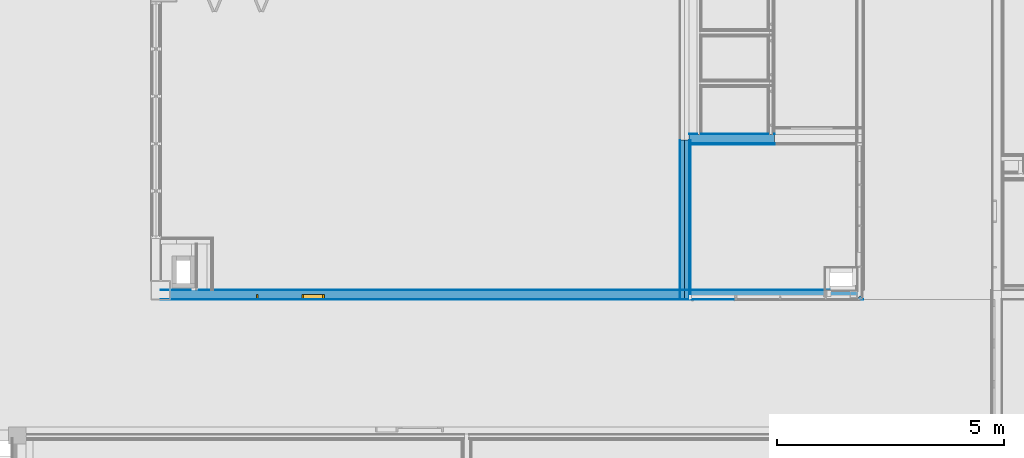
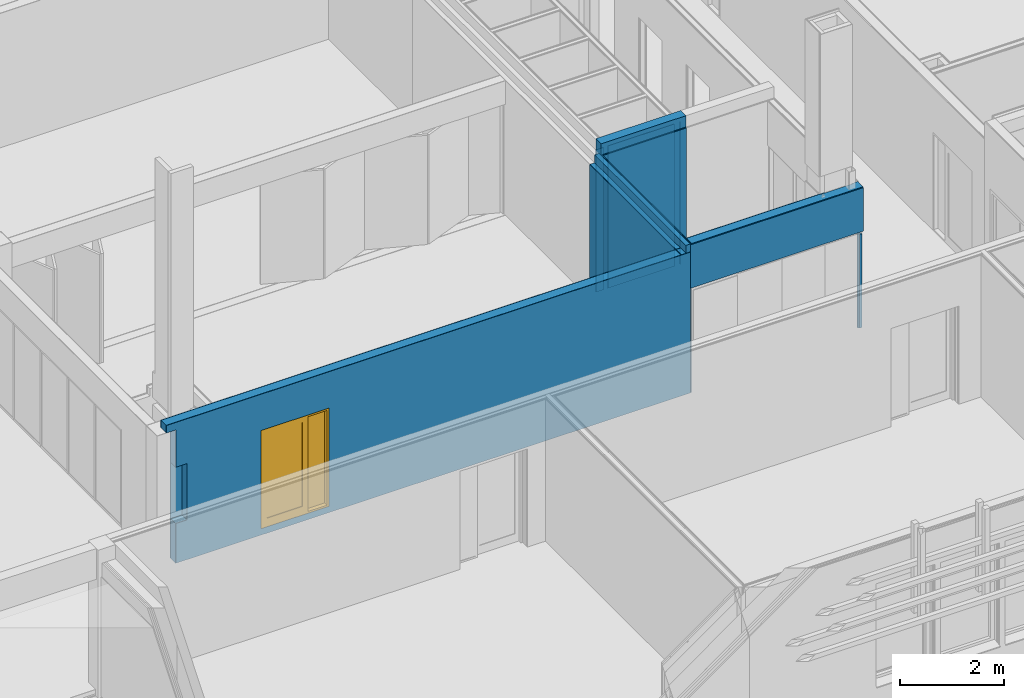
# One storey, part 108 of 139: 15 building element parts, 1 door, 2 openings, 6 elements without a shape of their own.
"""IFC2X3 building model written with IfcOpenShell, lengths in millimetres."""

from ifc_helpers import new_model, entity, si_unit, converted_unit, derived_unit, money_unit, direction, frame, origin_with_axes, place, context, subcontext, project, spatial, open_shell, faceted_brep, surface_model, material, type_object, element, fill, aggregate, save


model = new_model("IFC2X3")

# Units and contexts
model_context = context("Model", 3, precision=0.01, world=origin_with_axes(), true_north=direction((0.0, 1.0)))
body_context = subcontext(model_context, "Body", "Model", "MODEL_VIEW")
ifc_project = project(units=[si_unit("LENGTHUNIT", "METRE", prefix="MILLI"), si_unit("AREAUNIT", "SQUARE_METRE"), si_unit("VOLUMEUNIT", "CUBIC_METRE"), converted_unit("PLANEANGLEUNIT", "DEGREE", entity("IfcPlaneAngleMeasure", 0.0174532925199), si_unit("PLANEANGLEUNIT", "RADIAN"), dimensions=[0, 0, 0, 0, 0, 0, 0]), money_unit("EUR"), converted_unit("TIMEUNIT", "Year", entity("IfcTimeMeasure", 31556926.0), si_unit("TIMEUNIT", "SECOND"), dimensions=[0, 0, 1, 0, 0, 0, 0]), si_unit("MASSUNIT", "GRAM", prefix="KILO"), si_unit("THERMODYNAMICTEMPERATUREUNIT", "DEGREE_CELSIUS"), si_unit("LUMINOUSINTENSITYUNIT", "LUMEN"), si_unit("ENERGYUNIT", "JOULE", prefix="MEGA"), derived_unit("THERMALCONDUCTANCEUNIT", [(si_unit("POWERUNIT", "WATT"), 1), (si_unit("LENGTHUNIT", "METRE"), -1), (si_unit("THERMODYNAMICTEMPERATUREUNIT", "KELVIN"), -1)]), derived_unit("SPECIFICHEATCAPACITYUNIT", [(si_unit("ENERGYUNIT", "JOULE"), 1), (si_unit("MASSUNIT", "GRAM", prefix="KILO"), -1), (si_unit("THERMODYNAMICTEMPERATUREUNIT", "KELVIN"), -1)]), derived_unit("MASSDENSITYUNIT", [(si_unit("MASSUNIT", "GRAM", prefix="KILO"), 1), (si_unit("VOLUMEUNIT", "CUBIC_METRE"), -1)])], contexts=[model_context])

# Site, building, storey
site_placement = place(None, origin_with_axes())
site = spatial("IfcSite", under=ifc_project, at=site_placement, Name="Kolde pst 67a", CompositionType="ELEMENT")
building_placement = place(site_placement, origin_with_axes())
building = spatial("IfcBuilding", under=site, at=building_placement, Name="Riigigümnaasium", CompositionType="ELEMENT")
storey_placement = place(building_placement, frame((0.0, 0.0, 4600.0), z_axis=(0.0, 0.0, 1.0), x_axis=(1.0, 0.0, 0.0)))
storey = spatial("IfcBuildingStorey", under=building, at=storey_placement, Name="2. korrus", CompositionType="ELEMENT", Elevation=4600.0)

# Door
door_style = type_object("IfcDoorStyle", Name="Door with Sidelight on Side 2 25", ConstructionType="NOTDEFINED", OperationType="SINGLE_SWING_RIGHT", ParameterTakesPrecedence=False, Sizeable=False)
wall_3_placement = place(storey_placement, frame((58329.9488767, 10899.9619407, -150.0), z_axis=(0.0, 0.0, 1.0), x_axis=(1.0, 0.0, 0.0)))
opening_1_placement = place(wall_3_placement, frame((2853.78991535, 0.0, 150.0), z_axis=(0.0, 0.0, 1.0), x_axis=(1.0, 0.0, 0.0)))
door_placement = place(opening_1_placement, frame((750.0, 0.0, 0.0), z_axis=(0.0, 0.0, 1.0), x_axis=(-1.0, 0.0, 0.0)))
door = element("IfcDoor", 1, at=door_placement, inside=storey, type_object=door_style, Name="Siseuks", ObjectType="DOOR", OverallHeight=2300.0, OverallWidth=1500.0, context=body_context, shape_type="SurfaceModel", body=[
    faceted_brep([(0.0, 210.0, 0.0), (40.0, 210.0, 0.0), (40.0, 95.0, 0.0), (0.0, 95.0, 0.0), (0.0, 210.0, 2260.0), (40.0, 210.0, 2260.0), (40.0, 210.0, 40.0), (40.0, 95.0, 40.0), (40.0, 95.0, 2260.0), (0.0, 95.0, 2260.0)], [[[0, 1, 2, 3]], [[0, 4, 5, 6, 1]], [[1, 6, 7, 2]], [[3, 2, 7, 8, 9]], [[4, 0, 3, 9]], [[5, 4, 9, 8]], [[6, 5, 8, 7]]]),
    faceted_brep([(500.0, 170.0, 0.0), (500.0, 170.0, 2260.0), (500.0, 95.0, 2260.0), (500.0, 95.0, 0.0), (488.0, 170.0, 2260.0), (488.0, 170.0, 0.0), (488.0, 210.0, 2260.0), (460.0, 210.0, 2260.0), (460.0, 95.0, 2260.0), (460.0, 95.0, 0.0), (460.0, 95.0, 40.0), (460.0, 210.0, 0.0), (488.0, 210.0, 0.0), (460.0, 210.0, 40.0)], [[[0, 1, 2, 3]], [[4, 1, 0, 5]], [[4, 6, 7, 8, 2, 1]], [[9, 3, 2, 8, 10]], [[5, 0, 3, 9, 11, 12]], [[6, 4, 5, 12]], [[6, 12, 11, 13, 7]], [[13, 10, 8, 7]], [[11, 9, 10, 13]]]),
    faceted_brep([(40.0, 210.0, 40.0), (40.0, 210.0, 0.0), (40.0, 95.0, 0.0), (40.0, 95.0, 40.0), (460.0, 210.0, 40.0), (460.0, 210.0, 0.0), (460.0, 95.0, 0.0), (460.0, 95.0, 40.0)], [[[0, 1, 2, 3]], [[0, 4, 5, 1]], [[1, 5, 6, 2]], [[3, 2, 6, 7]], [[4, 0, 3, 7]], [[5, 4, 7, 6]]]),
    faceted_brep([(1472.0, 170.0, 2260.0), (1460.0, 170.0, 2260.0), (1460.0, 95.0, 2260.0), (1500.0, 95.0, 2260.0), (1500.0, 210.0, 2260.0), (1472.0, 210.0, 2260.0), (1472.0, 170.0, 0.0), (1460.0, 170.0, 0.0), (1460.0, 95.0, 0.0), (1500.0, 95.0, 0.0), (1500.0, 210.0, 0.0), (1472.0, 210.0, 0.0)], [[[0, 1, 2, 3, 4, 5]], [[1, 0, 6, 7]], [[1, 7, 8, 2]], [[3, 2, 8, 9]], [[4, 3, 9, 10]], [[11, 5, 4, 10]], [[0, 5, 11, 6]], [[6, 11, 10, 9, 8, 7]]]),
    faceted_brep([(488.0, 210.0, 2272.0), (488.0, 210.0, 2260.0), (460.0, 210.0, 2260.0), (40.0, 210.0, 2260.0), (0.0, 210.0, 2260.0), (0.0, 210.0, 2300.0), (1500.0, 210.0, 2300.0), (1500.0, 210.0, 2260.0), (1472.0, 210.0, 2260.0), (1472.0, 210.0, 2272.0), (488.0, 170.0, 2272.0), (488.0, 170.0, 2260.0), (1460.0, 170.0, 2260.0), (1460.0, 95.0, 2260.0), (500.0, 95.0, 2260.0), (460.0, 95.0, 2260.0), (40.0, 95.0, 2260.0), (0.0, 95.0, 2260.0), (0.0, 95.0, 2300.0), (1500.0, 95.0, 2300.0), (1500.0, 95.0, 2260.0), (1472.0, 170.0, 2260.0), (1472.0, 170.0, 2272.0)], [[[0, 1, 2, 3, 4, 5, 6, 7, 8, 9]], [[1, 0, 10, 11]], [[11, 12, 13, 14, 15, 2, 1]], [[2, 15, 16, 3]], [[3, 16, 17, 4]], [[4, 17, 18, 5]], [[5, 18, 19, 6]], [[6, 19, 20, 7]], [[21, 8, 7, 20, 13, 12]], [[9, 8, 21, 22]], [[0, 9, 22, 10]], [[21, 12, 11, 10, 22]], [[13, 20, 19, 18, 17, 16, 15, 14]]]),
    faceted_brep([(1472.0, 210.0, 200.0), (1472.0, 170.0, 200.0), (1372.0, 170.0, 200.0), (1372.0, 210.0, 200.0), (1472.0, 210.0, 2172.0), (1472.0, 170.0, 2172.0), (1372.0, 170.0, 2172.0), (1372.0, 210.0, 2172.0)], [[[0, 1, 2, 3]], [[4, 5, 1, 0]], [[1, 5, 6, 2]], [[3, 2, 6, 7]], [[0, 3, 7, 4]], [[7, 6, 5, 4]]]),
    faceted_brep([(488.0, 210.0, 200.0), (488.0, 170.0, 200.0), (488.0, 170.0, 2172.0), (488.0, 210.0, 2172.0), (588.0, 210.0, 200.0), (588.0, 170.0, 200.0), (588.0, 170.0, 2172.0), (588.0, 210.0, 2172.0)], [[[0, 1, 2, 3]], [[4, 5, 1, 0]], [[1, 5, 6, 2]], [[3, 2, 6, 7]], [[0, 3, 7, 4]], [[7, 6, 5, 4]]]),
    faceted_brep([(1472.0, 210.0, 0.0), (1472.0, 170.0, 0.0), (488.0, 170.0, 0.0), (488.0, 210.0, 0.0), (1472.0, 210.0, 200.0), (1472.0, 170.0, 200.0), (1372.0, 170.0, 200.0), (588.0, 170.0, 200.0), (488.0, 170.0, 200.0), (488.0, 210.0, 200.0), (588.0, 210.0, 200.0), (1372.0, 210.0, 200.0)], [[[0, 1, 2, 3]], [[4, 5, 1, 0]], [[1, 5, 6, 7, 8, 2]], [[3, 2, 8, 9]], [[0, 3, 9, 10, 11, 4]], [[11, 6, 5, 4]], [[10, 7, 6, 11]], [[9, 8, 7, 10]]]),
    faceted_brep([(1472.0, 210.0, 2272.0), (1472.0, 170.0, 2272.0), (1472.0, 170.0, 2172.0), (1472.0, 210.0, 2172.0), (488.0, 210.0, 2272.0), (488.0, 170.0, 2272.0), (488.0, 170.0, 2172.0), (588.0, 170.0, 2172.0), (1372.0, 170.0, 2172.0), (1372.0, 210.0, 2172.0), (588.0, 210.0, 2172.0), (488.0, 210.0, 2172.0)], [[[0, 1, 2, 3]], [[4, 5, 1, 0]], [[1, 5, 6, 7, 8, 2]], [[3, 2, 8, 9]], [[0, 3, 9, 10, 11, 4]], [[11, 6, 5, 4]], [[10, 7, 6, 11]], [[9, 8, 7, 10]]]),
    surface_model("IfcShellBasedSurfaceModel", [(1372.0, 196.0, 200.0), (588.0, 196.0, 200.0), (588.0, 196.0, 2172.0), (1372.0, 196.0, 2172.0)], [open_shell([[[0, 1, 2, 3]]])]),
    surface_model("IfcShellBasedSurfaceModel", [(1372.0, 184.0, 200.0), (1372.0, 184.0, 2172.0), (588.0, 184.0, 2172.0), (588.0, 184.0, 200.0)], [open_shell([[[0, 1, 2, 3]]])]),
    surface_model("IfcShellBasedSurfaceModel", [(40.0, 119.0, 40.0), (40.0, 119.0, 2260.0), (460.0, 119.0, 2260.0), (460.0, 119.0, 40.0)], [open_shell([[[0, 1, 2, 3]]])]),
    surface_model("IfcShellBasedSurfaceModel", [(40.0, 107.0, 40.0), (460.0, 107.0, 40.0), (460.0, 107.0, 2260.0), (40.0, 107.0, 2260.0)], [open_shell([[[0, 1, 2, 3]]])]),
])

# Wall, building element parts
wall_type_1 = type_object("IfcWallType", Name="SS-RB-20/3_+krohv+dold 240", PredefinedType="NOTDEFINED")
wall_1_placement = place(storey_placement, frame((69949.999213, 10699.9619407, -150.0), z_axis=(0.0, 0.0, 1.0), x_axis=(0.0, 1.0, 0.0)))
wall_1 = element("IfcWall", 2, at=wall_1_placement, inside=storey, type_object=wall_type_1, Name="Sisesein")
ifc_material_1 = material(Name="_VIIMISTLUSKIHT - viimistlus vastavalt SA osale")
building_element_part_1_placement = place(wall_1_placement, origin_with_axes())
building_element_part_1 = element("IfcBuildingElementPart", 3, at=building_element_part_1_placement, material=ifc_material_1, Name="_VIIMISTLUSKIHT - viimistlus vastavalt SA osale", context=body_context, shape_type="Brep", body=[
    faceted_brep([(3500.03803199, 210.0, 3300.0), (3500.03803199, 200.0, 3300.0), (3500.03803199, 200.0, 0.0), (3500.03803199, 210.0, 0.0), (-7.3741901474e-08, 200.0, 3300.0), (-7.3741901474e-08, 210.0, 3300.0), (0.0, 200.0, 0.0), (0.0, 210.0, 0.0)], [[[0, 1, 2, 3]], [[4, 1, 0, 5]], [[1, 4, 6, 2]], [[7, 3, 2, 6]], [[5, 0, 3, 7]], [[4, 5, 7, 6]]]),
])
ifc_material_2 = material(Name="_KANDETARIND - monteeritav raudbetoon vastavalt EK osale")
building_element_part_2_placement = place(wall_1_placement, origin_with_axes())
building_element_part_2 = element("IfcBuildingElementPart", 4, at=building_element_part_2_placement, material=ifc_material_2, Name="_KANDETARIND - monteeritav raudbetoon vastavalt EK osale", context=body_context, shape_type="Brep", body=[
    faceted_brep([(3500.03803199, 200.0, 3300.0), (3500.03803199, 100.000080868, 3300.0), (3500.03803199, 100.000080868, 3485.0), (3500.03803199, 0.0, 3485.0), (3500.03803199, 0.0, 0.0), (3500.03803199, 200.0, 0.0), (-7.3741901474e-08, 200.0, 3300.0), (-7.3741901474e-08, 100.000080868, 3300.0), (-7.3741901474e-08, 100.000080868, 3485.0), (0.0, 0.0, 3485.0), (0.0, 0.0, 0.0), (0.0, 200.0, 0.0)], [[[0, 1, 2, 3, 4, 5]], [[1, 0, 6, 7]], [[8, 2, 1, 7]], [[2, 8, 9, 3]], [[10, 4, 3, 9]], [[11, 5, 4, 10]], [[6, 0, 5, 11]], [[7, 6, 11, 10, 9, 8]]]),
])
ifc_material_3 = material(Name="_KARKASS - eriprofiilkinnitus vastavalt sisemisele plaatviimistlusele")
building_element_part_3_placement = place(wall_1_placement, origin_with_axes())
building_element_part_3 = element("IfcBuildingElementPart", 5, at=building_element_part_3_placement, material=ifc_material_3, Name="_KARKASS - eriprofiilkinnitus vastavalt sisemisele plaatviimistlusele", context=body_context, shape_type="Brep", body=[
    faceted_brep([(0.0, -10.0, 3485.0), (3500.03803199, -10.0, 3485.0), (3500.03803199, 0.0, 3485.0), (0.0, 0.0, 3485.0), (0.0, -10.0, 0.0), (3500.03803199, -10.0, 0.0), (3500.03803199, 0.0, 0.0), (0.0, 0.0, 0.0)], [[[0, 1, 2, 3]], [[4, 5, 1, 0]], [[2, 1, 5, 6]], [[3, 2, 6, 7]], [[4, 0, 3, 7]], [[7, 6, 5, 4]]]),
])
building_element_part_4_placement = place(wall_1_placement, origin_with_axes())
building_element_part_4 = element("IfcBuildingElementPart", 6, at=building_element_part_4_placement, material=ifc_material_1, Name="_VIIMISTLUSKIHT - viimistlus vastavalt SA osale", context=body_context, shape_type="Brep", body=[
    faceted_brep([(3500.03803199, -30.0, 3485.0), (3500.03803199, -10.0, 3485.0), (0.0, -10.0, 3485.0), (0.0, -30.0, 3485.0), (3500.03803199, -30.0, 0.0), (3500.03803199, -10.0, 0.0), (0.0, -10.0, 0.0), (0.0, -30.0, 0.0)], [[[0, 1, 2, 3]], [[0, 4, 5, 1]], [[1, 5, 6, 2]], [[3, 2, 6, 7]], [[4, 0, 3, 7]], [[5, 4, 7, 6]]]),
])
aggregate(wall_1, [building_element_part_1, building_element_part_2, building_element_part_3, building_element_part_4])

# Curtain wall, member, building element part
curtain_wall_type = type_object("IfcCurtainWallType", Name="Curtain Wall Type", PredefinedType="NOTDEFINED")
curtain_wall_placement = place(storey_placement, frame((71469.9681221, 10694.9619432, -0.000132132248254), z_axis=(0.0, 0.0, 1.0), x_axis=(1.0, 0.0, 0.0)))
curtain_wall = element("IfcCurtainWall", 7, at=curtain_wall_placement, inside=storey, type_object=curtain_wall_type, Name="KLAASSEIN")
member_type = type_object("IfcMemberType", Name="Corner Frame 80 x 60", PredefinedType="MEMBER")
member_placement = place(curtain_wall_placement, frame((2279.75189028, 3.82592446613e-06, 0.0), z_axis=(0.0, 0.0, 1.0), x_axis=(-0.707106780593, -0.70710678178, 0.0)))
member = element("IfcMember", 8, at=member_placement, type_object=member_type, Name="RF RAAM NURK-066", ObjectType="MEMBER")
aggregate(curtain_wall, [member])
ifc_material_4 = material(Name="_METALL - alumiinium")
building_element_part_5_placement = place(member_placement, origin_with_axes())
building_element_part_5 = element("IfcBuildingElementPart", 9, at=building_element_part_5_placement, material=ifc_material_4, Name="_METALL - alumiinium", context=body_context, shape_type="Brep", body=[
    faceted_brep([(-24.7487373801, -45.9619407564, 2250.00018238), (-45.9619408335, -67.1751441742, 2250.00018238), (-14.1421357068, -98.9949493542, 2250.00018238), (0.0, -84.8528136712, 2250.00018238), (14.1421357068, -98.9949493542, 2250.00018238), (45.9619408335, -67.1751441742, 2250.00018238), (24.7487373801, -45.9619407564, 2250.00018238), (35.355339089, -35.3553390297, 2250.00018238), (0.0, 0.0, 2250.00018238), (-35.355339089, -35.3553390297, 2250.00018238), (-24.7487373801, -45.9619407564, 50.0), (-45.9619408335, -67.1751441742, 50.0), (-14.1421357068, -98.9949493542, 50.0), (0.0, -84.8528136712, 50.0), (14.1421357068, -98.9949493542, 50.0), (45.9619408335, -67.1751441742, 50.0), (24.7487373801, -45.9619407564, 50.0), (35.355339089, -35.3553390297, 50.0), (0.0, 0.0, 50.0), (-35.355339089, -35.3553390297, 50.0)], [[[0, 1, 2, 3, 4, 5, 6, 7, 8, 9]], [[1, 0, 10, 11]], [[1, 11, 12, 2]], [[2, 12, 13, 3]], [[3, 13, 14, 4]], [[5, 4, 14, 15]], [[5, 15, 16, 6]], [[7, 6, 16, 17]], [[17, 18, 8, 7]], [[19, 9, 8, 18]], [[0, 9, 19, 10]], [[10, 19, 18, 17, 16, 15, 14, 13, 12, 11]]]),
])
aggregate(member, [building_element_part_5])

# Wall, building element parts
wall_type_2 = type_object("IfcWallType", Name="SS-RB-20/1_+2 krohv 55 dB 220", PredefinedType="NOTDEFINED")
wall_2_placement = place(storey_placement, frame((73779.99953, 10699.9619406, 2300.0), z_axis=(0.0, 0.0, 1.0), x_axis=(-1.0, 0.0, 0.0)))
wall_2 = element("IfcWall", 10, at=wall_2_placement, inside=storey, type_object=wall_type_2, Name="Sisesein")
building_element_part_6_placement = place(wall_2_placement, origin_with_axes())
building_element_part_6 = element("IfcBuildingElementPart", 11, at=building_element_part_6_placement, material=ifc_material_1, Name="_VIIMISTLUSKIHT - viimistlus vastavalt SA osale", context=body_context, shape_type="Brep", body=[
    faceted_brep([(3830.00024201, 0.0, 1020.0), (0.0, 0.0, 1020.0), (0.0, 0.0, 0.0), (3830.00024174, 0.0, 0.0), (0.0, 10.0, 1020.0), (3830.00024174, 10.0, 1020.0), (0.0, 10.0, 0.0), (3830.00024174, 10.0, 0.0)], [[[0, 1, 2, 3]], [[4, 1, 0, 5]], [[1, 4, 6, 2]], [[6, 7, 3, 2]], [[5, 0, 3, 7]], [[4, 5, 7, 6]]]),
])
building_element_part_7_placement = place(wall_2_placement, origin_with_axes())
building_element_part_7 = element("IfcBuildingElementPart", 12, at=building_element_part_7_placement, material=ifc_material_2, Name="_KANDETARIND - monteeritav raudbetoon vastavalt EK osale", context=body_context, shape_type="Brep", body=[
    faceted_brep([(840.000745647, -184.977473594, 1035.0), (840.000745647, -194.977473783, 1035.0), (840.000747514, -200.0, 1035.0), (3830.00024174, -200.0, 1035.0), (3830.00024201, 0.00734994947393, 1035.0), (0.0, 0.0, 1035.0), (0.0, -200.0, 1035.0), (139.999995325, -200.0, 1035.0), (139.999995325, -194.977473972, 1035.0), (129.999995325, -194.977473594, 1035.0), (129.999995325, -184.977473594, 1035.0), (840.000745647, -184.977473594, 0.0), (840.000745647, -194.977473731, 0.0), (840.000747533, -194.977473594, 1040.0), (840.000745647, -200.0, 1040.0), (740.000745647, -200.0, 1040.0), (740.000745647, -200.0, 0.0), (3830.00024174, -200.0, 0.0), (3830.00024174, 0.0, 0.0), (0.0, 0.0, 0.0), (0.0, -200.0, 0.0), (139.999995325, -200.0, 0.0), (139.999995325, -194.977473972, 0.0), (129.999995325, -194.977473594, 0.0), (129.999995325, -184.977473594, 0.0), (740.000745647, -194.977473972, 0.0), (740.000745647, -194.977473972, 1035.0), (740.000745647, -194.977473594, 1040.0)], [[[0, 1, 2, 3, 4, 5, 6, 7, 8, 9, 10]], [[1, 0, 11, 12]], [[2, 1, 13, 14]], [[15, 16, 17, 3, 2, 14]], [[18, 4, 3, 17]], [[5, 4, 18, 19]], [[20, 6, 5, 19]], [[21, 7, 6, 20]], [[22, 8, 7, 21]], [[9, 8, 22, 23]], [[10, 9, 23, 24]], [[0, 10, 24, 11]], [[23, 22, 21, 20, 19, 18, 17, 16, 25, 12, 11, 24]], [[25, 26, 1, 12]], [[1, 26, 27, 13]], [[27, 15, 14, 13]], [[26, 25, 16, 15, 27]]]),
])
building_element_part_8_placement = place(wall_2_placement, origin_with_axes())
building_element_part_8 = element("IfcBuildingElementPart", 13, at=building_element_part_8_placement, material=ifc_material_1, Name="_VIIMISTLUSKIHT - viimistlus vastavalt SA osale", context=body_context, shape_type="Brep", body=[
    faceted_brep([(740.000745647, -200.0, 1040.0), (740.000745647, -210.0, 1040.0), (840.000745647, -210.0, 1040.0), (840.000745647, -200.0, 1040.0), (740.000745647, -210.0, 0.0), (740.000745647, -200.0, 0.0), (3830.00024174, -210.0, 0.0), (3830.00024174, -210.0, 1035.0), (840.000747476, -210.0, 1035.0), (840.000747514, -200.0, 1035.0), (3830.00024174, -200.0, 1035.0), (3830.00024174, -200.0, 0.0)], [[[0, 1, 2, 3]], [[4, 1, 0, 5]], [[1, 4, 6, 7, 8, 2]], [[9, 3, 2, 8]], [[5, 0, 3, 9, 10, 11]], [[4, 5, 11, 6]], [[11, 10, 7, 6]], [[9, 8, 7, 10]]]),
])
aggregate(wall_2, [building_element_part_6, building_element_part_7, building_element_part_8])

# Wall, opening
wall_3 = element("IfcWall", 14, at=wall_3_placement, inside=storey, type_object=wall_type_2, Name="Sisesein")
opening_1 = element("IfcOpeningElement", 15, at=opening_1_placement, cuts=wall_3, Name="Siseuks", context=body_context, shape_type="Brep", body=[
    faceted_brep([(-750.0, 220.0, 2300.0), (-750.0, 220.0, 0.0), (-750.0, -440.0, 0.0), (-750.0, -440.0, 2300.0), (750.0, 220.0, 2300.0), (750.0, 220.0, 0.0), (750.0, -440.0, 0.0), (750.0, -440.0, 2300.0)], [[[0, 1, 2, 3]], [[0, 4, 5, 1]], [[1, 5, 6, 2]], [[3, 2, 6, 7]], [[4, 0, 3, 7]], [[5, 4, 7, 6]]]),
])

fill(opening_1, door)

# Opening
opening_2_placement = place(wall_3_placement, frame((-58329.9488767, -10899.9619407, -4450.0), z_axis=(0.0, 0.0, 1.0), x_axis=(1.0, 0.0, 0.0)))
element("IfcOpeningElement", 16, at=opening_2_placement, cuts=wall_3, Name="Tulekustuti nišš vastavalt SA osale", ObjectType="OPENING", context=body_context, shape_type="Brep", body=[
    faceted_brep([(58539.9489447, 10689.9619407, 5380.0), (58539.9489447, 10689.9619407, 6700.0), (58539.9489447, 10889.9619407, 6700.0), (58539.9489447, 10889.9619407, 5380.0), (58789.9489447, 10689.9619407, 5380.0), (58789.9489447, 10689.9619407, 6700.0), (58789.9489447, 10889.9619407, 6700.0), (58789.9489447, 10889.9619407, 5380.0)], [[[0, 1, 2, 3]], [[0, 4, 5, 1]], [[1, 5, 6, 2]], [[3, 2, 6, 7]], [[4, 0, 3, 7]], [[5, 4, 7, 6]]]),
])

# Building element part
building_element_part_9_placement = place(wall_3_placement, origin_with_axes())
building_element_part_9 = element("IfcBuildingElementPart", 17, at=building_element_part_9_placement, material=ifc_material_1, Name="_VIIMISTLUSKIHT - viimistlus vastavalt SA osale", context=body_context, shape_type="Brep", body=[
    faceted_brep([(200.000018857, 0.0, 3125.0), (200.000018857, 10.0, 3125.0), (210.000018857, 10.0, 3125.0), (210.000018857, 0.0, 3125.0), (0.0, 10.0, 3125.0), (0.0, 0.0, 3125.0), (0.0, 10.0, 3300.0), (11620.0503363, 10.0, 3300.0), (11620.0503363, 10.0, 0.0), (210.000018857, 10.0, 0.0), (2103.78991535, 10.0, 2450.0), (2103.78991535, 10.0, 150.0), (3603.78991535, 10.0, 150.0), (3603.78991535, 10.0, 2450.0), (210.000018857, 0.0, 0.0), (11620.0503363, 0.0, 0.0), (11620.0503363, 0.0, 3300.0), (0.0, 0.0, 3300.0), (3603.78991535, 0.0, 150.0), (2103.78991535, 0.0, 150.0), (2103.78991535, 0.0, 2450.0), (3603.78991535, 0.0, 2450.0)], [[[0, 1, 2, 3]], [[4, 1, 0, 5]], [[1, 4, 6, 7, 8, 9, 2], [10, 11, 12, 13]], [[2, 9, 14, 3]], [[5, 0, 3, 14, 15, 16, 17], [18, 19, 20, 21]], [[4, 5, 17, 6]], [[16, 7, 6, 17]], [[16, 15, 8, 7]], [[14, 9, 8, 15]], [[19, 11, 10, 20]], [[18, 12, 11, 19]], [[21, 13, 12, 18]], [[20, 10, 13, 21]]]),
])

building_element_part_10_placement = place(wall_3_placement, origin_with_axes())
building_element_part_10 = element("IfcBuildingElementPart", 18, at=building_element_part_10_placement, material=ifc_material_2, Name="_KANDETARIND - monteeritav raudbetoon vastavalt EK osale", context=body_context, shape_type="Brep", body=[
    faceted_brep([(200.000018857, -200.0, 3125.0), (200.000018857, 0.0, 3125.0), (210.000018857, 0.0, 3125.0), (210.000018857, -200.0, 3125.0), (0.0, 0.0, 3125.0), (0.0, -200.0, 3125.0), (0.0, 0.0, 3300.0), (11620.0503363, 0.0, 3300.0), (11620.0503363, 0.0, 0.0), (210.000018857, 0.0, 0.0), (2103.78991535, 0.0, 2450.0), (2103.78991535, 0.0, 150.0), (3603.78991535, 0.0, 150.0), (3603.78991535, 0.0, 2450.0), (210.000018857, -200.0, 0.0), (210.000018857, -200.0, 930.0), (210.000018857, -10.0, 930.0), (210.000018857, -10.0, 2250.0), (210.000018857, -200.0, 2250.0), (460.000067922, -200.0, 2250.0), (460.000067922, -200.0, 930.0), (11620.0503363, -200.0, 0.0), (11620.0503363, -200.0, 3300.0), (0.0, -200.0, 3300.0), (3603.78991535, -200.0, 150.0), (2103.78991535, -200.0, 150.0), (2103.78991535, -200.0, 2450.0), (3603.78991535, -200.0, 2450.0), (460.000067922, -10.0, 930.0), (460.000067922, -10.0, 2250.0)], [[[0, 1, 2, 3]], [[4, 1, 0, 5]], [[1, 4, 6, 7, 8, 9, 2], [10, 11, 12, 13]], [[2, 9, 14, 15, 16, 17, 18, 3]], [[5, 0, 3, 18, 19, 20, 15, 14, 21, 22, 23], [24, 25, 26, 27]], [[4, 5, 23, 6]], [[23, 22, 7, 6]], [[7, 22, 21, 8]], [[14, 9, 8, 21]], [[25, 11, 10, 26]], [[24, 12, 11, 25]], [[27, 13, 12, 24]], [[26, 10, 13, 27]], [[16, 15, 20, 28]], [[17, 16, 28, 29]], [[18, 17, 29, 19]], [[20, 19, 29, 28]]]),
])

building_element_part_11_placement = place(wall_3_placement, origin_with_axes())
building_element_part_11 = element("IfcBuildingElementPart", 19, at=building_element_part_11_placement, material=ifc_material_1, Name="_VIIMISTLUSKIHT - viimistlus vastavalt SA osale", context=body_context, shape_type="Brep", body=[
    faceted_brep([(200.000016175, -199.999997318, 3125.0), (0.0, -199.999997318, 3125.0), (0.0, -200.0, 3300.0), (11620.0503363, -200.0, 3300.0), (11620.0503363, -200.0, 0.0), (210.000018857, -200.0, 0.0), (210.000018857, -200.0, 930.0), (460.000067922, -200.0, 930.0), (460.000067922, -200.0, 2250.0), (210.000018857, -200.0, 2250.0), (210.000018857, -200.0, 3125.0), (2103.78991535, -200.0, 2450.0), (2103.78991535, -200.0, 150.0), (3603.78991535, -200.0, 150.0), (3603.78991535, -200.0, 2450.0), (210.000018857, -210.0, 3125.0), (0.0, -210.0, 3125.0), (0.0, -210.0, 3300.0), (11620.0503363, -210.0, 3300.0), (11620.0503363, -210.0, 0.0), (210.000018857, -210.0, 0.0), (210.000018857, -210.0, 930.0), (460.000067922, -210.0, 930.0), (460.000067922, -210.0, 2250.0), (210.000018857, -210.0, 2250.0), (2103.78991535, -210.0, 150.0), (2103.78991535, -210.0, 2450.0), (3603.78991535, -210.0, 150.0), (3603.78991535, -210.0, 2450.0)], [[[0, 1, 2, 3, 4, 5, 6, 7, 8, 9, 10], [11, 12, 13, 14]], [[0, 10, 15, 16, 1]], [[1, 16, 17, 2]], [[17, 18, 3, 2]], [[3, 18, 19, 4]], [[20, 5, 4, 19]], [[21, 6, 5, 20]], [[6, 21, 22, 7]], [[8, 7, 22, 23]], [[24, 9, 8, 23]], [[10, 9, 24, 15]], [[25, 12, 11, 26]], [[27, 13, 12, 25]], [[28, 14, 13, 27]], [[26, 11, 14, 28]], [[15, 24, 23, 22, 21, 20, 19, 18, 17, 16], [27, 25, 26, 28]]]),
])

aggregate(wall_3, [building_element_part_9, building_element_part_10, building_element_part_11])

# Wall, building element parts
wall_type_3 = type_object("IfcWallType", Name="SS-KP-20/4_1xplaat+1dold 245", PredefinedType="NOTDEFINED")
wall_4_placement = place(storey_placement, frame((71830.0001802, 14329.3653119, -150.0), z_axis=(0.0, 0.0, 1.0), x_axis=(-1.0, 0.0, 0.0)))
wall_4 = element("IfcWall", 20, at=wall_4_placement, inside=storey, type_object=wall_type_3, Name="Sisesein")
building_element_part_12_placement = place(wall_4_placement, origin_with_axes())
building_element_part_12 = element("IfcBuildingElementPart", 21, at=building_element_part_12_placement, material=ifc_material_1, Name="_VIIMISTLUSKIHT - viimistlus vastavalt SA osale", context=body_context, shape_type="Brep", body=[
    faceted_brep([(1880.00089185, 210.0, 3485.0), (0.0, 210.0, 3485.0), (0.0, 210.0, 150.0), (1880.00089185, 210.0, 150.0), (0.0, 230.0, 3485.0), (1880.00089185, 230.000022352, 3485.0), (0.0, 230.0, 150.0), (1880.00089185, 230.000022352, 150.0)], [[[0, 1, 2, 3]], [[4, 1, 0, 5]], [[1, 4, 6, 2]], [[3, 2, 6, 7]], [[5, 0, 3, 7]], [[4, 5, 7, 6]]]),
])
building_element_part_13_placement = place(wall_4_placement, origin_with_axes())
building_element_part_13 = element("IfcBuildingElementPart", 22, at=building_element_part_13_placement, material=ifc_material_3, Name="_KARKASS - eriprofiilkinnitus vastavalt sisemisele plaatviimistlusele", context=body_context, shape_type="Brep", body=[
    faceted_brep([(1880.00089185, 199.999988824, 3485.0), (0.0, 200.0, 3485.0), (0.0, 200.0, 147.0), (1880.00089185, 199.999988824, 147.0), (0.0, 210.0, 3485.0), (1880.00089185, 210.0, 3485.0), (0.0, 210.0, 147.0), (1880.00089185, 210.0, 147.0)], [[[0, 1, 2, 3]], [[4, 1, 0, 5]], [[1, 4, 6, 2]], [[3, 2, 6, 7]], [[5, 0, 3, 7]], [[4, 5, 7, 6]]]),
])
ifc_material_5 = material(Name="_KANDETARIND - kergplokk Fibo3 200mm")
building_element_part_14_placement = place(wall_4_placement, origin_with_axes())
building_element_part_14 = element("IfcBuildingElementPart", 23, at=building_element_part_14_placement, material=ifc_material_5, Name="_KANDETARIND - kergplokk Fibo3 200mm", context=body_context, shape_type="Brep", body=[
    faceted_brep([(1880.00089185, -1.11758815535e-05, 3750.0), (1880.00089185, 199.999988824, 3750.0), (0.0, 200.0, 3750.0), (0.0, 0.0, 3750.0), (1880.00089185, -1.11758815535e-05, 20.0), (1880.00089185, 199.999988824, 20.0), (0.0, 200.0, 20.0), (0.0, 0.0, 20.0)], [[[0, 1, 2, 3]], [[1, 0, 4, 5]], [[2, 1, 5, 6]], [[2, 6, 7, 3]], [[0, 3, 7, 4]], [[7, 6, 5, 4]]]),
])
building_element_part_15_placement = place(wall_4_placement, origin_with_axes())
building_element_part_15 = element("IfcBuildingElementPart", 24, at=building_element_part_15_placement, material=ifc_material_1, Name="_VIIMISTLUSKIHT - viimistlus vastavalt SA osale", context=body_context, shape_type="Brep", body=[
    faceted_brep([(1880.00089185, -15.0, 3485.0), (1706.00138161, -15.0, 3485.0), (1706.00138161, -15.0, 150.0), (1880.00089185, -15.0, 150.0), (1706.00138161, -2.37646524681e-06, 3485.0), (1880.00089185, -1.90677340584e-06, 3485.0), (1706.00138161, -1.11758815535e-05, 150.0), (1880.00089185, -1.07769242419e-05, 150.0)], [[[0, 1, 2, 3]], [[4, 1, 0, 5]], [[1, 4, 6, 2]], [[3, 2, 6, 7]], [[5, 0, 3, 7]], [[4, 5, 7, 6]]]),
    faceted_brep([(1615.00138168, -15.0, 3485.0), (139.999991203, -15.0, 3485.0), (139.999991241, -15.0, 150.0), (1615.00138161, -15.0, 150.0), (139.999989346, -5.58794077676e-06, 3485.0), (1615.00138168, -2.59901788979e-06, 3485.0), (139.999989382, -5.58794077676e-06, 150.0), (1615.00138161, -1.11758815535e-05, 150.0)], [[[0, 1, 2, 3]], [[4, 1, 0, 5]], [[1, 4, 6, 2]], [[3, 2, 6, 7]], [[5, 0, 3, 7]], [[4, 5, 7, 6]]]),
    faceted_brep([(14.999991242, -15.0, 3485.0), (0.0, -15.0, 3485.0), (0.0, -15.0, 150.0), (14.9999912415, -15.0, 150.0), (0.0, 0.0, 3485.0), (14.999989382, -5.58794077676e-06, 3485.0), (0.0, 0.0, 150.0), (14.9999893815, -5.58794077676e-06, 150.0)], [[[0, 1, 2, 3]], [[4, 1, 0, 5]], [[1, 4, 6, 2]], [[3, 2, 6, 7]], [[5, 0, 3, 7]], [[4, 5, 7, 6]]]),
])
aggregate(wall_4, [building_element_part_12, building_element_part_13, building_element_part_14, building_element_part_15])

save(model, "model.ifc")
